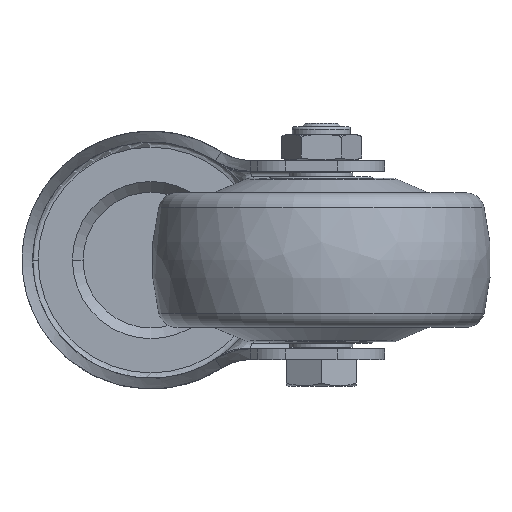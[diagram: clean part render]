
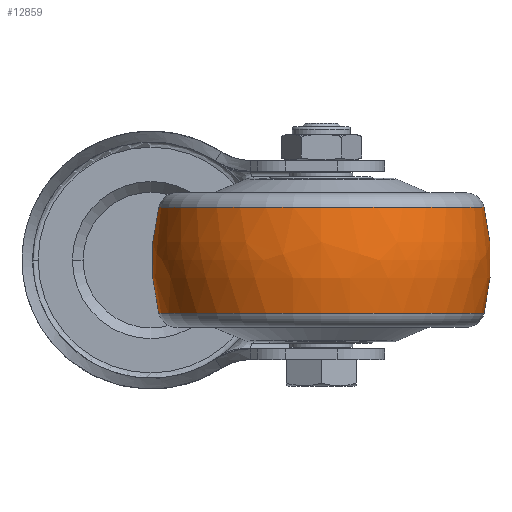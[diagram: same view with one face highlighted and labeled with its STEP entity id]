
A CAD part, front view. The second image highlights one B-rep face of the part: STEP entity #12859.
In plain terms, the highlighted free-form (B-spline) face has degree [3, 3] with [7, 4] control points.
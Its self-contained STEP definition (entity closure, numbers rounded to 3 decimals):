
#12345=CARTESIAN_POINT('',(0.,-8.5,0.));
#12346=DIRECTION('',(0.,0.,1.));
#12347=DIRECTION('',(0.247,0.969,0.));
#12348=AXIS2_PLACEMENT_3D('',#12345,#12346,#12347);
#12350=CARTESIAN_POINT('',(0.,8.5,0.));
#12351=DIRECTION('',(0.,0.,-1.));
#12352=DIRECTION('',(0.247,-0.969,0.));
#12353=AXIS2_PLACEMENT_3D('',#12350,#12351,#12352);
#12355=CARTESIAN_POINT('',(9.863,0.,0.));
#12356=DIRECTION('',(-1.,0.,0.));
#12357=DIRECTION('',(0.,1.,0.));
#12358=AXIS2_PLACEMENT_3D('',#12355,#12356,#12357);
#12380=CARTESIAN_POINT('',(-9.863,0.,0.));
#12381=DIRECTION('',(-1.,0.,0.));
#12382=DIRECTION('',(0.,1.,0.));
#12383=AXIS2_PLACEMENT_3D('',#12380,#12381,#12382);
#12510=CARTESIAN_POINT('',(9.863,30.265,0.));
#12512=VERTEX_POINT('',#12510);
#12513=CARTESIAN_POINT('',(-9.863,30.265,0.));
#12514=VERTEX_POINT('',#12513);
#12550=CARTESIAN_POINT('',(9.863,-30.265,0.));
#12552=VERTEX_POINT('',#12550);
#12553=CARTESIAN_POINT('',(-9.863,-30.265,0.));
#12554=VERTEX_POINT('',#12553);
#12821=CARTESIAN_POINT('',(-10.249,-30.105,
1.894));
#12822=CARTESIAN_POINT('',(-3.494,-31.892,
2.006));
#12823=CARTESIAN_POINT('',(3.494,-31.892,
2.006));
#12824=CARTESIAN_POINT('',(10.249,-30.105,
1.894));
#12825=CARTESIAN_POINT('',(-10.249,-31.271,
-16.633));
#12826=CARTESIAN_POINT('',(-3.494,-33.127,
-17.62));
#12827=CARTESIAN_POINT('',(3.494,-33.127,
-17.62));
#12828=CARTESIAN_POINT('',(10.249,-31.271,
-16.633));
#12829=CARTESIAN_POINT('',(-10.249,-18.563,
-30.165));
#12830=CARTESIAN_POINT('',(-3.494,-19.665,
-31.955));
#12831=CARTESIAN_POINT('',(3.494,-19.665,
-31.955));
#12832=CARTESIAN_POINT('',(10.249,-18.563,
-30.165));
#12833=CARTESIAN_POINT('',(-10.249,0.,-30.165));
#12834=CARTESIAN_POINT('',(-3.494,0.,-31.955));
#12835=CARTESIAN_POINT('',(3.494,0.,-31.955));
#12836=CARTESIAN_POINT('',(10.249,0.,-30.165));
#12837=CARTESIAN_POINT('',(-10.249,18.563,
-30.165));
#12838=CARTESIAN_POINT('',(-3.494,19.665,
-31.955));
#12839=CARTESIAN_POINT('',(3.494,19.665,
-31.955));
#12840=CARTESIAN_POINT('',(10.249,18.563,
-30.165));
#12841=CARTESIAN_POINT('',(-10.249,31.271,
-16.633));
#12842=CARTESIAN_POINT('',(-3.494,33.127,
-17.62));
#12843=CARTESIAN_POINT('',(3.494,33.127,
-17.62));
#12844=CARTESIAN_POINT('',(10.249,31.271,
-16.633));
#12845=CARTESIAN_POINT('',(-10.249,30.105,
1.894));
#12846=CARTESIAN_POINT('',(-3.494,31.892,
2.006));
#12847=CARTESIAN_POINT('',(3.494,31.892,2.006));
#12848=CARTESIAN_POINT('',(10.249,30.105,1.894));
#12849=(BOUNDED_SURFACE()B_SPLINE_SURFACE(3,3,((#12821,#12822,#12823,#12824),(
#12825,#12826,#12827,#12828),(#12829,#12830,#12831,#12832),(#12833,#12834,
#12835,#12836),(#12837,#12838,#12839,#12840),(#12841,#12842,#12843,#12844),(
#12845,#12846,#12847,#12848)),.UNSPECIFIED.,.F.,.F.,.F.)B_SPLINE_SURFACE_WITH_KNOTS((4,3,4),(4,4),(0.,1.,2.),(0.,1.),.UNSPECIFIED.)GEOMETRIC_REPRESENTATION_ITEM()RATIONAL_B_SPLINE_SURFACE(((1.207,1.181,
1.181,1.207),(0.953,0.932,
0.932,0.953),(0.953,0.932,
0.932,0.953),(1.207,1.181,
1.181,1.207),(0.953,0.932,
0.932,0.953),(0.953,0.932,
0.932,0.953),(1.207,1.181,
1.181,1.207)))REPRESENTATION_ITEM('')SURFACE());
#12851=ORIENTED_EDGE('',*,*,#12850,.T.);
#12853=ORIENTED_EDGE('',*,*,#12852,.T.);
#12855=ORIENTED_EDGE('',*,*,#12854,.F.);
#12856=ORIENTED_EDGE('',*,*,#12814,.F.);
#12857=EDGE_LOOP('',(#12851,#12853,#12855,#12856));
#12858=FACE_OUTER_BOUND('',#12857,.F.);
#12349=CIRCLE('',#12348,40.);
#12354=CIRCLE('',#12353,40.);
#12359=CIRCLE('',#12358,30.265);
#12384=CIRCLE('',#12383,30.265);
#12814=EDGE_CURVE('',#12512,#12552,#12359,.T.);
#12850=EDGE_CURVE('',#12512,#12514,#12349,.T.);
#12852=EDGE_CURVE('',#12514,#12554,#12384,.T.);
#12854=EDGE_CURVE('',#12552,#12554,#12354,.T.);
#12859=ADVANCED_FACE('',(#12858),#12849,.T.);
